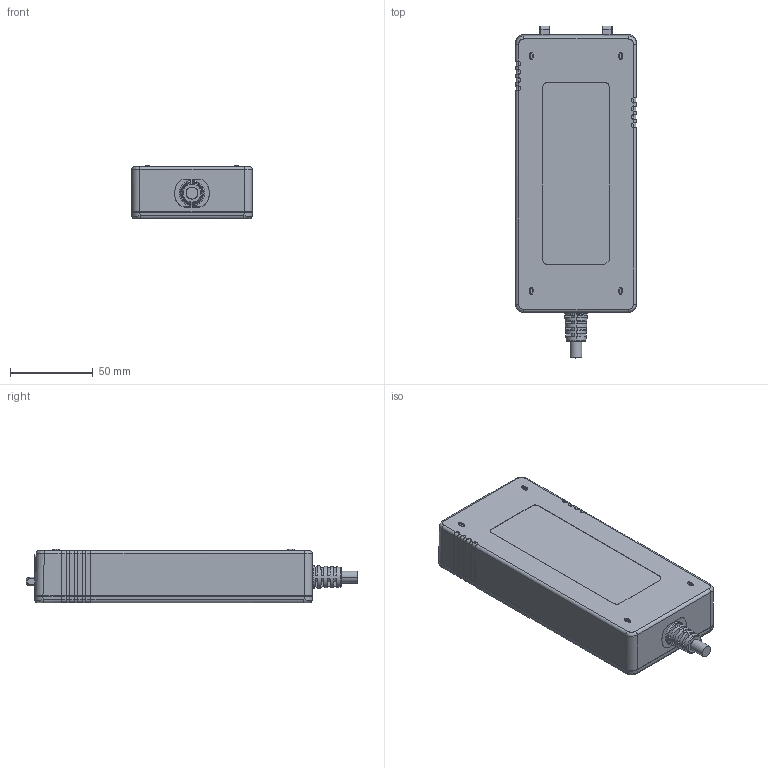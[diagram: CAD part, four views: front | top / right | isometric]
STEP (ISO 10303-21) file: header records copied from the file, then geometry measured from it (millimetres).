
FILE_DESCRIPTION (( 'STEP AP214' ), '1' );
FILE_NAME ('APM240C2-18.STEP', '2025-12-10T06:49:52', ( '' ), ( '' ), 'SwSTEP 2.0', 'SolidWorks 2024', '' );
FILE_SCHEMA (( 'AUTOMOTIVE_DESIGN' ));
Length unit declared in the file: millimetre
Products named in the file (27): LOWER_7_8_12_42_1_12_5_1_17_1_2_1.IGS; 240D-20231114-01_1_1_1_1_1_1__1_1.IGS; FE_1_2_1_1.IGS; PRT0004_1_1_1_1_1_1_1_1_1_1_1_2.IGS; APM240D-HS3_12_8_3_1_1_1_1_1__1_1.IGS; C14_ASM_ASM_1_1_ASM_1_ASM_1_A_2_ASM-0.IGS; MANIFOLD_SOLID_BREP_110_1_1_1_2.IGS; FE_1_1_1_1.IGS; PRT0003_1_1_1_1_1_1_1_1_1_1_1_2.IGS; APM240C2-18; APM240-HSMN_4_1_1_1_1_1_2_1_1_1_1.IGS; PRT0028_1_1_1_1_1_1_1_1_1_1_1_2.IGS; APM240C2-18.IGS; CF101_1_1_1_1_1_1_1_1_1_1_1_1_1.IGS; MANIFOLD_SOLID_BREP_116_1_1_1_2.IGS; PIN_SZ_1_1_1_1_1_1_1_1_1_1_1_1.IGS; SR-JD_3_1_1_1_2_1_1_1.IGS; PRT0005_1_1_1_1_1_1_1_1_1_1_1_2.IGS; APM240D-HS2_17_6_2_1_1_1_1_1__1_1.IGS; APM240-PCB-A1_2_1_1_1_1_1_1_1_1_1.IGS; 265DZ-LOWER_2_1_1_5_7_3_37_1_1.IGS; FN24_1_1_1_1_1_1_1_1_1_1_1_1__1.IGS; PRT0022_1_1_1_1_1_1_1_1_1_1_1_2.IGS; MANIFOLD_SOLID_BREP_107_2_1_1_2.IGS; CM15_MHQ_1_1_1_1_1_1_1_1_1_1__1.IGS; MANIFOLD_SOLID_BREP_113_1_1_1_2.IGS; PRT0001_1_1_1_1_1_1_1_1_1_1_1_2.IGS
Assembly tree (27 placements, depth 3):
  APM240C2-18
    APM240C2-18.IGS
      APM240D-HS2_17_6_2_1_1_1_1_1__1_1.IGS
      PIN_SZ_1_1_1_1_1_1_1_1_1_1_1_1.IGS  x2
      APM240D-HS3_12_8_3_1_1_1_1_1__1_1.IGS
      265DZ-LOWER_2_1_1_5_7_3_37_1_1.IGS
      LOWER_7_8_12_42_1_12_5_1_17_1_2_1.IGS
      APM240-HSMN_4_1_1_1_1_1_2_1_1_1_1.IGS
      MANIFOLD_SOLID_BREP_107_2_1_1_2.IGS
      MANIFOLD_SOLID_BREP_110_1_1_1_2.IGS
      MANIFOLD_SOLID_BREP_113_1_1_1_2.IGS
      MANIFOLD_SOLID_BREP_116_1_1_1_2.IGS
      CM15_MHQ_1_1_1_1_1_1_1_1_1_1__1.IGS
      PRT0022_1_1_1_1_1_1_1_1_1_1_1_2.IGS
      PRT0001_1_1_1_1_1_1_1_1_1_1_1_2.IGS
      PRT0028_1_1_1_1_1_1_1_1_1_1_1_2.IGS
      PRT0003_1_1_1_1_1_1_1_1_1_1_1_2.IGS
      PRT0004_1_1_1_1_1_1_1_1_1_1_1_2.IGS
      PRT0005_1_1_1_1_1_1_1_1_1_1_1_2.IGS
      FN24_1_1_1_1_1_1_1_1_1_1_1_1__1.IGS
      CF101_1_1_1_1_1_1_1_1_1_1_1_1_1.IGS
      C14_ASM_ASM_1_1_ASM_1_ASM_1_A_2_ASM-0.IGS
      APM240-PCB-A1_2_1_1_1_1_1_1_1_1_1.IGS
      240D-20231114-01_1_1_1_1_1_1__1_1.IGS
      SR-JD_3_1_1_1_2_1_1_1.IGS
      FE_1_1_1_1.IGS
      FE_1_2_1_1.IGS
Bounding box: 73 x 200.86 x 32.3 mm (x, y, z)
Volume: 43402.9 mm3; surface area: 174444.2 mm2
Topology: 20 solids, 31 shells, 3093 faces, 8132 edges, 5297 vertices
Faces by surface type: bspline 3093
Entity records: 106121 total; most frequent: CARTESIAN_POINT 56980, ORIENTED_EDGE 16083, EDGE_CURVE 8061, B_SPLINE_CURVE_WITH_KNOTS 7005, VERTEX_POINT 5255, EDGE_LOOP 3323, FACE_OUTER_BOUND 3070, ADVANCED_FACE 3070
